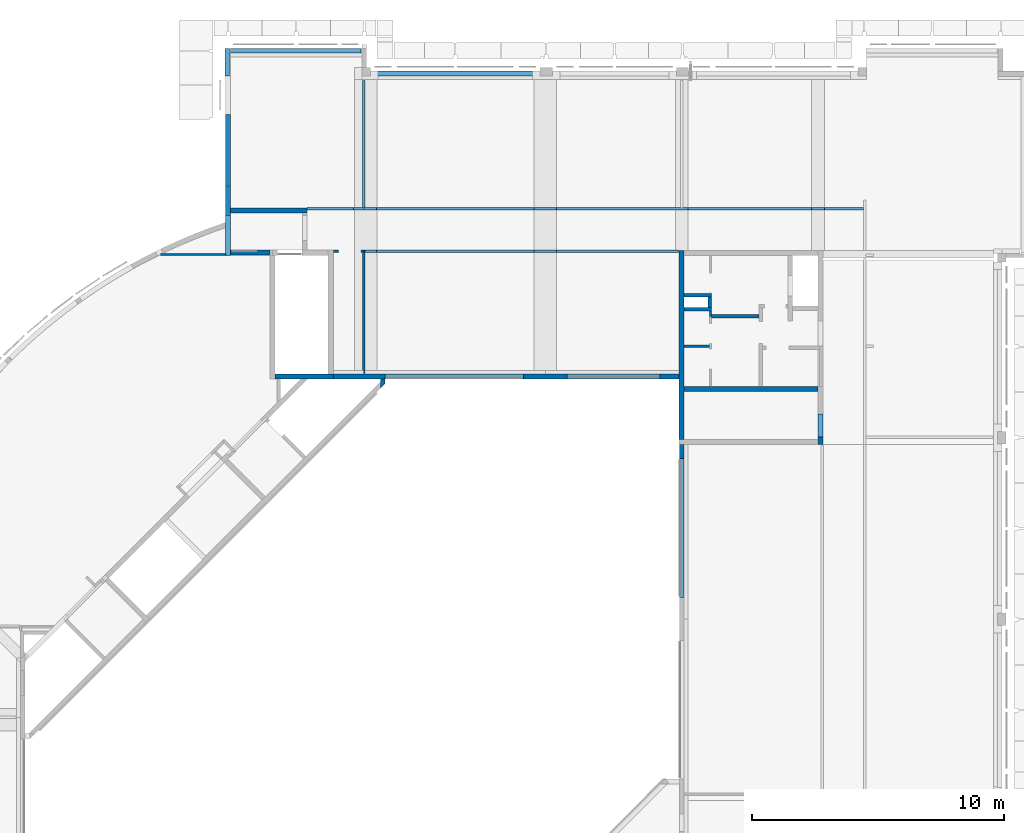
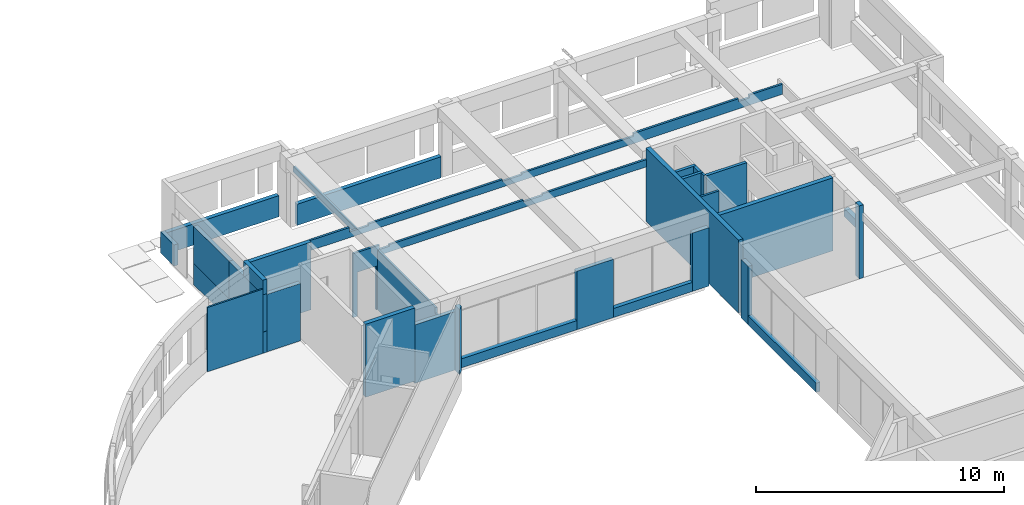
# One storey, part 17 of 26: 34 walls.
"""IFC4X3_ADD2 building model written with IfcOpenShell, lengths in millimetres."""

from ifc_helpers import new_model, si_unit, direction, frame, frame_2d, origin_with_axes, origin_2d_with_axis, place, context, subcontext, project, spatial, polyline, rectangle, outline, extrude, source, transform, mapped, material, type_object, type_shapes, element, save


model = new_model("IFC4X3_ADD2")

# Units and contexts
model_context = context("Model", 3, precision=1e-05, world=origin_with_axes(), true_north=direction((0.0, 1.0)))
body_context = subcontext(model_context, "Body", "Model", "MODEL_VIEW")
ifc_project = project(units=[si_unit("LENGTHUNIT", "METRE", prefix="MILLI"), si_unit("AREAUNIT", "SQUARE_METRE"), si_unit("VOLUMEUNIT", "CUBIC_METRE"), si_unit("PLANEANGLEUNIT", "RADIAN"), si_unit("TIMEUNIT", "SECOND"), si_unit("MASSUNIT", "GRAM")], contexts=[model_context])

# Site, building, storey
site_placement = place(None, origin_with_axes())
site = spatial("IfcSite", under=ifc_project, at=site_placement, Name="Site", CompositionType="ELEMENT")
building_placement = place(site_placement, origin_with_axes())
building = spatial("IfcBuilding", under=site, at=building_placement, Name="IFC Building Story")
storey_placement = place(building_placement, frame((0.0, 0.0, 7200.0), z_axis=(0.0, 0.0, 1.0), x_axis=(1.0, 0.0, 0.0)))
storey = spatial("IfcBuildingStorey", under=building, at=storey_placement, Name="020", Elevation=7200.0)

# Walls
ifc_material_1 = material(Name="BB_Beton_Bestaand")
wall_type_1 = type_object("IfcWallType", Name="BB_Beton_Bestaand 200", PredefinedType="NOTDEFINED", material=ifc_material_1)
wall_1_placement = place(storey_placement, origin_with_axes())
element("IfcWall", 1, at=wall_1_placement, inside=storey, type_object=wall_type_1, Name="Basic Wall:BB_XX_Wand uit beton, 200 mm", ObjectType="Basic Wall:BB_XX_Wand uit beton, 200 mm", PredefinedType="SOLIDWALL", context=body_context, shape_type="SweptSolid", body=[
    extrude(rectangle(XDim=7489.999999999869, YDim=199.9999999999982, at=frame_2d((0.0, 0.0), x_axis=(0.0, 1.0))), frame((-12600.0040658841, 39944.99999999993, -80.0), z_axis=(0.0, 0.0, 1.0), x_axis=(1.0, 0.0, 0.0)), (0.0, 0.0, 1.0), 3600.0),
])
wall_2_placement = place(storey_placement, origin_with_axes())
element("IfcWall", 2, at=wall_2_placement, inside=storey, type_object=wall_type_1, Name="Basic Wall:BB_XX_Wand uit beton, 200 mm", ObjectType="Basic Wall:BB_XX_Wand uit beton, 200 mm", PredefinedType="SOLIDWALL", context=body_context, shape_type="SweptSolid", body=[
    extrude(rectangle(XDim=5300.004065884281, YDim=200.0, at=origin_2d_with_axis()), frame((-9850.00203294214, 38200.0, -80.0), z_axis=(0.0, 0.0, 1.0), x_axis=(1.0, 0.0, 0.0)), (0.0, 0.0, 1.0), 3600.0),
])
wall_3_placement = place(storey_placement, origin_with_axes())
element("IfcWall", 3, at=wall_3_placement, inside=storey, type_object=wall_type_1, Name="Basic Wall:BB_XX_Wand uit beton, 200 mm", ObjectType="Basic Wall:BB_XX_Wand uit beton, 200 mm", PredefinedType="SOLIDWALL", context=body_context, shape_type="SweptSolid", body=[
    extrude(rectangle(XDim=299.9999999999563, YDim=200.0, at=frame_2d((0.0, 0.0), x_axis=(0.0, 1.0))), frame((-7100.0, 36149.99999999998, -200.0), z_axis=(0.0, 0.0, 1.0), x_axis=(1.0, 0.0, 0.0)), (0.0, 0.0, 1.0), 3600.0),
])
wall_4_placement = place(storey_placement, origin_with_axes())
element("IfcWall", 4, at=wall_4_placement, inside=storey, type_object=wall_type_1, Name="Basic Wall:BB_XX_Wand uit beton, 200 mm", ObjectType="Basic Wall:BB_XX_Wand uit beton, 200 mm", PredefinedType="SOLIDWALL", context=body_context, shape_type="SweptSolid", body=[
    extrude(rectangle(XDim=2299.999999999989, YDim=200.0, at=origin_2d_with_axis()), frame((-27550.0, 38699.9959341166, -80.0), z_axis=(0.0, 0.0, 1.0), x_axis=(1.0, 0.0, 0.0)), (0.0, 0.0, 1.0), 3600.0),
])
wall_type_2 = type_object("IfcWallType", Name="BB_Beton_Bestaand 190", PredefinedType="NOTDEFINED", material=ifc_material_1)
wall_5_placement = place(storey_placement, origin_with_axes())
element("IfcWall", 5, at=wall_5_placement, inside=storey, type_object=wall_type_2, Name="Basic Wall:BB_XX_Wand uit beton, 190 mm", ObjectType="Basic Wall:BB_XX_Wand uit beton, 190 mm", PredefinedType="SOLIDWALL", context=body_context, shape_type="SweptSolid", body=[
    extrude(rectangle(XDim=6710.000000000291, YDim=189.9999999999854, at=origin_2d_with_axis()), frame((-21600.00000000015, 50700.0, -200.0), z_axis=(0.0, 0.0, 1.0), x_axis=(1.0, 0.0, 0.0)), (0.0, 0.0, 1.0), 1040.0),
])
wall_6_placement = place(storey_placement, origin_with_axes())
element("IfcWall", 6, at=wall_6_placement, inside=storey, type_object=wall_type_2, Name="Basic Wall:BB_XX_Wand uit beton, 190 mm", ObjectType="Basic Wall:BB_XX_Wand uit beton, 190 mm", PredefinedType="SOLIDWALL", context=body_context, shape_type="SweptSolid", body=[
    extrude(rectangle(XDim=5585.000000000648, YDim=190.0, at=frame_2d((0.0, 0.0), x_axis=(0.0, 1.0))), frame((-30565.0, 46292.50000000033, -200.0), z_axis=(0.0, 0.0, 1.0), x_axis=(1.0, 0.0, 0.0)), (0.0, 0.0, 1.0), 1040.0),
])
wall_7_placement = place(storey_placement, origin_with_axes())
element("IfcWall", 7, at=wall_7_placement, inside=storey, type_object=wall_type_2, Name="Basic Wall:BB_XX_Wand uit beton, 190 mm", ObjectType="Basic Wall:BB_XX_Wand uit beton, 190 mm", PredefinedType="SOLIDWALL", context=body_context, shape_type="SweptSolid", body=[
    extrude(rectangle(XDim=5210.000000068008, YDim=189.9999999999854, at=origin_2d_with_axis()), frame((-27899.999999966, 51600.0, -200.0), z_axis=(0.0, 0.0, 1.0), x_axis=(1.0, 0.0, 0.0)), (0.0, 0.0, 1.0), 1040.0),
])
wall_8_placement = place(storey_placement, origin_with_axes())
element("IfcWall", 8, at=wall_8_placement, inside=storey, type_object=wall_type_2, Name="Basic Wall:BB_XX_Wand uit beton, 190 mm", ObjectType="Basic Wall:BB_XX_Wand uit beton, 190 mm", PredefinedType="SOLIDWALL", context=body_context, shape_type="SweptSolid", body=[
    extrude(rectangle(XDim=2055.000000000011, YDim=190.0, at=origin_2d_with_axis()), frame((-25372.5, 38699.9959341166, -200.0), z_axis=(0.0, 0.0, 1.0), x_axis=(1.0, 0.0, 0.0)), (0.0, 0.0, 1.0), 2880.0),
])
wall_9_placement = place(storey_placement, origin_with_axes())
element("IfcWall", 9, at=wall_9_placement, inside=storey, type_object=wall_type_2, Name="Basic Wall:BB_XX_Wand uit beton, 190 mm", ObjectType="Basic Wall:BB_XX_Wand uit beton, 190 mm", PredefinedType="SOLIDWALL", context=body_context, shape_type="SweptSolid", body=[
    extrude(rectangle(XDim=1710.0, YDim=190.0, at=origin_2d_with_axis()), frame((-18000.0, 38699.9959341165, -200.0), z_axis=(0.0, 0.0, 1.0), x_axis=(1.0, 0.0, 0.0)), (0.0, 0.0, 1.0), 2880.0),
])
wall_10_placement = place(storey_placement, origin_with_axes())
element("IfcWall", 10, at=wall_10_placement, inside=storey, type_object=wall_type_2, Name="Basic Wall:BB_XX_Wand uit beton, 190 mm", ObjectType="Basic Wall:BB_XX_Wand uit beton, 190 mm", PredefinedType="SOLIDWALL", context=body_context, shape_type="SweptSolid", body=[
    extrude(rectangle(XDim=754.9959341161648, YDim=190.0, at=origin_2d_with_axis()), frame((-13077.50203294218, 38699.9959341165, -200.0), z_axis=(0.0, 0.0, 1.0), x_axis=(1.0, 0.0, 0.0)), (0.0, 0.0, 1.0), 2880.0),
])
wall_11_placement = place(storey_placement, origin_with_axes())
element("IfcWall", 11, at=wall_11_placement, inside=storey, type_object=wall_type_2, Name="Basic Wall:BB_XX_Wand uit beton, 190 mm", ObjectType="Basic Wall:BB_XX_Wand uit beton, 190 mm", PredefinedType="SOLIDWALL", context=body_context, shape_type="SweptSolid", body=[
    extrude(rectangle(XDim=554.9959341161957, YDim=190.0, at=frame_2d((0.0, 0.0), x_axis=(0.0, 1.0))), frame((-12600.0040658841, 35722.4979670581, -200.0), z_axis=(0.0, 0.0, 1.0), x_axis=(1.0, 0.0, 0.0)), (0.0, 0.0, 1.0), 2880.0),
])
wall_12_placement = place(storey_placement, origin_with_axes())
element("IfcWall", 12, at=wall_12_placement, inside=storey, type_object=wall_type_2, Name="Basic Wall:BB_XX_Wand uit beton, 190 mm", ObjectType="Basic Wall:BB_XX_Wand uit beton, 190 mm", PredefinedType="SOLIDWALL", context=body_context, shape_type="SweptSolid", body=[
    extrude(rectangle(XDim=1090.000000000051, YDim=190.0, at=frame_2d((0.0, 0.0), x_axis=(0.0, 1.0))), frame((-30600.0, 51150.00000000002, -200.0), z_axis=(0.0, 0.0, 1.0), x_axis=(1.0, 0.0, 0.0)), (0.0, 0.0, 1.0), 1040.0),
])
wall_13_placement = place(storey_placement, origin_with_axes())
element("IfcWall", 13, at=wall_13_placement, inside=storey, type_object=wall_type_2, Name="Basic Wall:BB_XX_Wand uit beton, 190 mm", ObjectType="Basic Wall:BB_XX_Wand uit beton, 190 mm", PredefinedType="SOLIDWALL", context=body_context, shape_type="SweptSolid", body=[
    extrude(rectangle(XDim=5490.000000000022, YDim=190.0, at=frame_2d((0.0, 0.0), x_axis=(0.0, 1.0))), frame((-12600.0040658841, 32700.00000000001, -200.0), z_axis=(0.0, 0.0, 1.0), x_axis=(1.0, 0.0, 0.0)), (0.0, 0.0, 1.0), 449.999999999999),
])
wall_14_placement = place(storey_placement, origin_with_axes())
element("IfcWall", 14, at=wall_14_placement, inside=storey, type_object=wall_type_2, Name="Basic Wall:BB_XX_Wand uit beton, 190 mm", ObjectType="Basic Wall:BB_XX_Wand uit beton, 190 mm", PredefinedType="SOLIDWALL", context=body_context, shape_type="SweptSolid", body=[
    extrude(rectangle(XDim=3690.0, YDim=190.0, at=origin_2d_with_axis()), frame((-15300.0, 38699.9959341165, -200.0), z_axis=(0.0, 0.0, 1.0), x_axis=(1.0, 0.0, 0.0)), (0.0, 0.0, 1.0), 449.999999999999),
])
wall_15_placement = place(storey_placement, origin_with_axes())
element("IfcWall", 15, at=wall_15_placement, inside=storey, type_object=wall_type_2, Name="Basic Wall:BB_XX_Wand uit beton, 190 mm", ObjectType="Basic Wall:BB_XX_Wand uit beton, 190 mm", PredefinedType="SOLIDWALL", context=body_context, shape_type="SweptSolid", body=[
    extrude(rectangle(XDim=5490.0, YDim=190.0, at=origin_2d_with_axis()), frame((-21600.0, 38699.9959341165, -200.0), z_axis=(0.0, 0.0, 1.0), x_axis=(1.0, 0.0, 0.0)), (0.0, 0.0, 1.0), 449.999999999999),
])
ifc_material_2 = material(Name="BB_Metselwerk_Bestaand")
wall_type_3 = type_object("IfcWallType", Name="BB_Metselwerk_Bestaand 140", PredefinedType="NOTDEFINED", material=ifc_material_2)
wall_16_placement = place(storey_placement, origin_with_axes())
element("IfcWall", 16, at=wall_16_placement, inside=storey, type_object=wall_type_3, Name="Basic Wall:BB_XX_Wand uit metselwerk, 140 mm", ObjectType="Basic Wall:BB_XX_Wand uit metselwerk, 140 mm", PredefinedType="SOLIDWALL", context=body_context, shape_type="SweptSolid", body=[
    extrude(rectangle(XDim=1870.004065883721, YDim=140.0, at=origin_2d_with_axis()), frame((-10475.00203294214, 41080.0, -80.0), z_axis=(0.0, 0.0, 1.0), x_axis=(1.0, 0.0, 0.0)), (0.0, 0.0, 1.0), 3400.0),
])
wall_17_placement = place(storey_placement, origin_with_axes())
element("IfcWall", 17, at=wall_17_placement, inside=storey, type_object=wall_type_3, Name="Basic Wall:BB_XX_Wand uit metselwerk, 140 mm", ObjectType="Basic Wall:BB_XX_Wand uit metselwerk, 140 mm", PredefinedType="SOLIDWALL", context=body_context, shape_type="SweptSolid", body=[
    extrude(rectangle(XDim=1090.000000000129, YDim=140.0, at=origin_2d_with_axis()), frame((-11955.00406588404, 41370.0, -80.0), z_axis=(0.0, 0.0, 1.0), x_axis=(1.0, 0.0, 0.0)), (0.0, 0.0, 1.0), 3400.0),
])
wall_18_placement = place(storey_placement, origin_with_axes())
element("IfcWall", 18, at=wall_18_placement, inside=storey, type_object=wall_type_3, Name="Basic Wall:BB_XX_Wand uit metselwerk, 140 mm", ObjectType="Basic Wall:BB_XX_Wand uit metselwerk, 140 mm", PredefinedType="SOLIDWALL", context=body_context, shape_type="SweptSolid", body=[
    extrude(rectangle(XDim=409.9999999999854, YDim=140.0, at=frame_2d((0.0, 0.0), x_axis=(0.0, 1.0))), frame((-11480.004065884, 41644.99999999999, -80.0), z_axis=(0.0, 0.0, 1.0), x_axis=(1.0, 0.0, 0.0)), (0.0, 0.0, 1.0), 3400.0),
])
wall_19_placement = place(storey_placement, origin_with_axes())
element("IfcWall", 19, at=wall_19_placement, inside=storey, type_object=wall_type_3, Name="Basic Wall:BB_XX_Wand uit metselwerk, 140 mm", ObjectType="Basic Wall:BB_XX_Wand uit metselwerk, 140 mm", PredefinedType="SOLIDWALL", context=body_context, shape_type="SweptSolid", body=[
    extrude(rectangle(XDim=1090.000000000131, YDim=140.0, at=origin_2d_with_axis()), frame((-11955.00406588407, 41920.0, -80.0), z_axis=(0.0, 0.0, 1.0), x_axis=(1.0, 0.0, 0.0)), (0.0, 0.0, 1.0), 3400.0),
])
wall_type_4 = type_object("IfcWallType", Name="BB_Metselwerk_Bestaand 190", PredefinedType="NOTDEFINED", material=ifc_material_2)
wall_20_placement = place(storey_placement, origin_with_axes())
element("IfcWall", 20, at=wall_20_placement, inside=storey, type_object=wall_type_4, Name="Basic Wall:BB_XX_Wand uit metselwerk, 190 mm", ObjectType="Basic Wall:BB_XX_Wand uit metselwerk, 190 mm", PredefinedType="SOLIDWALL", context=body_context, shape_type="SweptSolid", body=[
    extrude(rectangle(XDim=2725.0, YDim=190.0, at=frame_2d((0.0, 0.0), x_axis=(0.0, 1.0))), frame((-30565.0, 44872.5, 840.0), z_axis=(0.0, 0.0, 1.0), x_axis=(1.0, 0.0, 0.0)), (0.0, 0.0, 1.0), 1840.0),
])
wall_21_placement = place(storey_placement, origin_with_axes())
element("IfcWall", 21, at=wall_21_placement, inside=storey, type_object=wall_type_4, Name="Basic Wall:BB_XX_Wand uit metselwerk, 190 mm", ObjectType="Basic Wall:BB_XX_Wand uit metselwerk, 190 mm", PredefinedType="SOLIDWALL", context=body_context, shape_type="SweptSolid", body=[
    extrude(rectangle(XDim=1574.999999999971, YDim=190.0, at=frame_2d((0.0, 0.0), x_axis=(0.0, 1.0))), frame((-30565.0, 44287.50000000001, 2680.0), z_axis=(0.0, 0.0, 1.0), x_axis=(1.0, 0.0, 0.0)), (0.0, 0.0, 1.0), 720.000000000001),
])
wall_22_placement = place(storey_placement, origin_with_axes())
element("IfcWall", 22, at=wall_22_placement, inside=storey, type_object=wall_type_4, Name="Basic Wall:BB_XX_Wand uit metselwerk, 190 mm", ObjectType="Basic Wall:BB_XX_Wand uit metselwerk, 190 mm", PredefinedType="SOLIDWALL", context=body_context, shape_type="SweptSolid", body=[
    extrude(rectangle(XDim=1570.000000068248, YDim=189.9999999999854, at=origin_2d_with_axis()), frame((-29684.99999996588, 43605.0, -200.0), z_axis=(0.0, 0.0, 1.0), x_axis=(1.0, 0.0, 0.0)), (0.0, 0.0, 1.0), 2830.0),
])
ifc_material_3 = material(Name="BB_Metselwerk_Betonsteen")
wall_type_5 = type_object("IfcWallType", Name="BB_Metselwerk_Betonsteen 190", PredefinedType="NOTDEFINED", material=ifc_material_3)
wall_23_placement = place(storey_placement, origin_with_axes())
element("IfcWall", 23, at=wall_23_placement, inside=storey, type_object=wall_type_5, Name="Basic Wall:BB_03.09.24#03_Wand uit metselwerk, 190 mm", ObjectType="Basic Wall:BB_03.09.24#03_Wand uit metselwerk, 190 mm", PredefinedType="SOLIDWALL", context=body_context, shape_type="SweptSolid", body=[
    extrude(rectangle(XDim=2850.00000000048, YDim=190.0, at=frame_2d((0.0, 0.0), x_axis=(0.0, 1.0))), frame((-30565.0, 47660.00000000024, 840.0), z_axis=(0.0, 0.0, 1.0), x_axis=(1.0, 0.0, 0.0)), (0.0, 0.0, 1.0), 1840.0),
])
wall_24_placement = place(storey_placement, origin_with_axes())
element("IfcWall", 24, at=wall_24_placement, inside=storey, type_object=wall_type_5, Name="Basic Wall:BB_03.09.24#05_Wand uit metselwerk_EI60, 190 mm", ObjectType="Basic Wall:BB_03.09.24#05_Wand uit metselwerk_EI60, 190 mm", PredefinedType="SOLIDWALL", context=body_context, shape_type="SweptSolid", body=[
    extrude(rectangle(XDim=3035.0, YDim=189.9999999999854, at=origin_2d_with_axis()), frame((-28952.5, 45280.0, -200.0), z_axis=(0.0, 0.0, 1.0), x_axis=(1.0, 0.0, 0.0)), (0.0, 0.0, 1.0), 3340.0),
])
wall_type_6 = type_object("IfcWallType", Name="BB_Metselwerk_Betonsteen 0", PredefinedType="NOTDEFINED", material=ifc_material_3)
wall_25_placement = place(storey_placement, origin_with_axes())
element("IfcWall", 25, at=wall_25_placement, inside=storey, type_object=wall_type_6, Name="Basic Wall:BB_03.09.24#05_Wand uit metselwerk_EI60, 190 mm", ObjectType="Basic Wall:BB_03.09.24#05_Wand uit metselwerk_EI60, 190 mm", PredefinedType="SOLIDWALL", context=body_context, shape_type="SweptSolid", body=[
    extrude(outline(polyline([(94.99999999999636, 142.3464480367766), (95.0, -47.34644803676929), (-95.00000000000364, -237.3464480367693), (-95.00000000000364, 142.3464480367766), (94.99999999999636, 142.3464480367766)])), frame((-24440.0, 38462.64948607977, -200.0), z_axis=(0.0, 0.0, 1.0), x_axis=(1.0, 0.0, 0.0)), (0.0, 0.0, 1.0), 3199.99999999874),
])
wall_type_7 = type_object("IfcWallType", Name="Basic Wall_BB_10.01.41#01_Gipskartonwand_MS100 _ 25.50.25_ 100 mm79", PredefinedType="NOTDEFINED")
shared_shape_1 = source(origin_with_axes(), body_context, "Body", "SweptSolid", [
    extrude(outline(polyline([(-628.7499999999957, 1327.5), (-433.7500000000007, 1327.5), (-433.7500000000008, -837.4999999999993), (456.2500000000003, -837.4999999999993), (456.2500000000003, 1327.5), (606.2499999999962, 1327.5), (606.2499999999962, -1817.5), (-628.7499999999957, -1817.5), (-628.7499999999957, 1327.5)])), frame((628.7499999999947, 37.4999999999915, 1327.5), z_axis=(0.0, 1.0, 0.0), x_axis=(1.0, 0.0, 0.0)), (0.0, 0.0, 1.0), 12.49999999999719),
    extrude(outline(polyline([(-747.4999999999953, 1646.999999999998), (-552.5000000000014, 1646.999999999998), (-552.5000000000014, -518.0000000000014), (337.5000000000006, -518.0000000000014), (337.5000000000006, 1646.999999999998), (474.9999999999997, 1646.999999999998), (474.9999999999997, -1277.999999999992), (487.4999999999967, -1277.999999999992), (487.4999999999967, -1498.000000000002), (-747.4999999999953, -1498.000000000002), (-747.4999999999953, 1646.999999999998)])), frame((747.4999999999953, 25.0, 1646.999999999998), z_axis=(0.0, 1.0, 0.0), x_axis=(1.0, 0.0, 0.0)), (0.0, 0.0, 1.0), 12.49999999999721),
    extrude(outline(polyline([(-744.9999999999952, 1646.999999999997), (-550.0, 1646.999999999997), (-550.0, -518.0000000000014), (340.0, -518.0000000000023), (340.0, 1647.000000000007), (464.999999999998, 1646.999999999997), (464.999999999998, -1277.999999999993), (489.9999999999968, -1277.999999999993), (489.9999999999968, -1498.000000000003), (-744.9999999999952, -1498.000000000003), (-744.9999999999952, 1646.999999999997)])), frame((744.9999999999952, -25.0, 1646.999999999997), z_axis=(0.0, 1.0, 0.0), x_axis=(1.0, 0.0, 0.0)), (0.0, 0.0, 1.0), 50.000000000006),
    extrude(outline(polyline([(-734.9999999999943, 1646.999999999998), (-540.0, 1646.999999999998), (-540.0, -518.0000000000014), (350.0, -518.0000000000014), (350.0, 1646.999999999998), (424.9999999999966, 1646.999999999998), (424.9999999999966, -1277.999999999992), (499.9999999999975, -1277.999999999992), (499.9999999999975, -1498.000000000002), (-734.9999999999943, -1498.000000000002), (-734.9999999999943, 1646.999999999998)])), frame((734.9999999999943, -37.49999999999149, 1646.999999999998), z_axis=(0.0, 1.0, 0.0), x_axis=(1.0, 0.0, 0.0)), (0.0, 0.0, 1.0), 12.49999999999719),
    extrude(outline(polyline([(-732.4999999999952, -1498.000000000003), (-732.4999999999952, 1646.999999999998), (-537.5000000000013, 1646.999999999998), (-537.5000000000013, -518.0), (352.5000000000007, -518.0), (352.5000000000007, 1646.999999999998), (414.9999999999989, 1646.999999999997), (414.9999999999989, -1277.999999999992), (502.4999999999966, -1277.999999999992), (502.4999999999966, -1498.000000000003), (-732.4999999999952, -1498.000000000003)])), frame((732.4999999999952, -50.0, 1646.999999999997), z_axis=(0.0, 1.0, 0.0), x_axis=(1.0, 0.0, 0.0)), (0.0, 0.0, 1.0), 12.5000000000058),
])
type_shapes(wall_type_7, [shared_shape_1])
wall_26_placement = place(storey_placement, frame((-26385.0, 43665.0, -5.0), z_axis=(0.0, 0.0, 1.0), x_axis=(1.0, 0.0, 0.0)))
element("IfcWall", 26, at=wall_26_placement, inside=storey, type_object=wall_type_7, Name="Basic Wall:BB_10.01.41#01_Gipskartonwand_MS100 / 25.50.25, 100 mm", ObjectType="Basic Wall:BB_10.01.41#01_Gipskartonwand_MS100 / 25.50.25, 100 mm", PredefinedType="PARTITIONING", context=body_context, shape_type="MappedRepresentation", body=[
    mapped(shared_shape_1, transform((0.0, 0.0, 0.0))),
])
wall_type_8 = type_object("IfcWallType", Name="Basic Wall_BB_10.01.41#01_Gipskartonwand_MS100 _ 25.50.25_ 100 mm81", PredefinedType="NOTDEFINED")
shared_shape_2 = source(origin_with_axes(), body_context, "Body", "SweptSolid", [
    extrude(outline(polyline([(-3590.62499999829, 2052.499999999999), (1291.87499999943, 2052.499999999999), (1291.87499999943, -587.4999999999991), (1141.87499999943, -587.4999999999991), (1141.87499999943, -592.5), (1156.87499999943, -592.5), (1156.87499999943, -872.4999999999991), (-3590.62499999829, -872.4999999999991), (-3590.62499999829, 2052.499999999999)])), frame((3503.1249999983, 37.50000000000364, 2052.499999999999), z_axis=(0.0, 1.0, 0.0), x_axis=(1.0, 0.0, 0.0)), (0.0, 0.0, 1.0), 12.5),
    extrude(outline(polyline([(-3581.24999999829, 2052.499999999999), (1288.74999999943, 2052.499999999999), (1288.74999999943, -587.4999999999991), (1138.74999999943, -587.4999999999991), (1138.74999999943, -592.5), (1153.74999999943, -592.5), (1153.74999999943, -872.4999999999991), (-3581.24999999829, -872.4999999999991), (-3581.24999999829, 2052.499999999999)])), frame((3506.24999999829, 25.0, 2052.499999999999), z_axis=(0.0, 1.0, 0.0), x_axis=(1.0, 0.0, 0.0)), (0.0, 0.0, 1.0), 12.5),
    extrude(outline(polyline([(-3546.249999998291, 2052.499999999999), (1273.749999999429, 2052.499999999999), (1273.749999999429, -587.4999999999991), (1123.749999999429, -587.4999999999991), (1123.749999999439, -592.5), (1148.749999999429, -592.5), (1148.749999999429, -872.4999999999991), (-3546.249999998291, -872.4999999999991), (-3546.249999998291, 2052.499999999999)])), frame((3521.249999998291, -25.0, 2052.499999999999), z_axis=(0.0, 1.0, 0.0), x_axis=(1.0, 0.0, 0.0)), (0.0, 0.0, 1.0), 49.99999999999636),
    extrude(outline(polyline([(-3534.374999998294, 2052.499999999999), (1273.124999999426, 2052.499999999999), (1273.124999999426, -587.4999999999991), (1123.124999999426, -587.4999999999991), (1123.124999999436, -592.5), (1138.124999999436, -592.5), (1138.124999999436, -872.4999999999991), (-3534.374999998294, -872.4999999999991), (-3534.374999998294, 2052.499999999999)])), frame((3521.874999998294, -37.5, 2052.499999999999), z_axis=(0.0, 1.0, 0.0), x_axis=(1.0, 0.0, 0.0)), (0.0, 0.0, 1.0), 12.5),
    extrude(outline(polyline([(-3524.999999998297, 2052.499999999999), (1269.999999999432, 2052.499999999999), (1269.999999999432, -587.4999999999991), (1119.999999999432, -587.4999999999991), (1119.999999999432, -592.5), (1134.999999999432, -592.5), (1134.999999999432, -872.4999999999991), (-3524.999999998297, -872.4999999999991), (-3524.999999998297, 2052.499999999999)])), frame((3524.999999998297, -50.0, 2052.499999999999), z_axis=(0.0, 1.0, 0.0), x_axis=(1.0, 0.0, 0.0)), (0.0, 0.0, 1.0), 12.5),
])
type_shapes(wall_type_8, [shared_shape_2])
wall_27_placement = place(storey_placement, frame((-25200.0, 43615.0, -5.0), z_axis=(0.0, 0.0, 1.0), x_axis=(0.0, -1.0, 0.0)))
element("IfcWall", 27, at=wall_27_placement, inside=storey, type_object=wall_type_8, Name="Basic Wall:BB_10.01.41#01_Gipskartonwand_MS100 / 25.50.25, 100 mm", ObjectType="Basic Wall:BB_10.01.41#01_Gipskartonwand_MS100 / 25.50.25, 100 mm", PredefinedType="PARTITIONING", context=body_context, shape_type="MappedRepresentation", body=[
    mapped(shared_shape_2, transform((0.0, 0.0, 0.0))),
])
wall_type_9 = type_object("IfcWallType", Name="Basic Wall_BB_10.01.41#01_Gipskartonwand_MS100 _ 25.50.25_ 100 mm87", PredefinedType="NOTDEFINED")
shared_shape_3 = source(origin_with_axes(), body_context, "Body", "SweptSolid", [
    extrude(outline(polyline([(-9258.333333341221, -151.1111111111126), (-10808.3333333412, -151.1111111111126), (-10808.3333333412, 348.8888888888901), (11226.6666667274, 348.8888888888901), (11226.6666667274, -151.1111111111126), (9386.666666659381, -151.1111111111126), (9386.66666665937, 68.88888888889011), (8486.666666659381, 68.88888888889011), (8486.666666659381, -11.11111111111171), (2241.66666665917, -11.11111111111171), (2241.666666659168, 68.88888888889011), (1341.666666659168, 68.88888888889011), (1341.666666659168, -11.11111111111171), (-3858.333333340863, -11.11111111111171), (-3858.333333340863, -151.1111111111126), (-8758.333333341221, -151.1111111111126), (-8758.333333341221, -11.11111111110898), (-9258.333333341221, -11.11111111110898), (-9258.333333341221, -151.1111111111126)])), frame((10808.3333333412, 37.50000000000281, 348.8888888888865), z_axis=(0.0, 1.0, 0.0), x_axis=(1.0, 0.0, 0.0)), (0.0, 0.0, 1.0), 12.49999999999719),
    extrude(outline(polyline([(-10808.3333333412, -151.1111111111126), (-10808.3333333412, 348.8888888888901), (11226.6666667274, 348.8888888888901), (11226.6666667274, -151.1111111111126), (9386.666666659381, -151.1111111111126), (9386.66666665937, 68.88888888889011), (8486.666666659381, 68.88888888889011), (8486.666666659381, -11.11111111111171), (2241.66666665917, -11.11111111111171), (2241.666666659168, 68.88888888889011), (1341.666666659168, 68.88888888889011), (1341.666666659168, -11.11111111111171), (-3858.333333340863, -11.11111111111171), (-3858.333333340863, -151.1111111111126), (-8758.333333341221, -151.1111111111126), (-8758.333333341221, -11.11111111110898), (-9258.333333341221, -11.11111111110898), (-9258.333333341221, -151.1111111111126), (-10808.3333333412, -151.1111111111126)])), frame((10808.3333333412, 24.99999999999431, 348.8888888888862), z_axis=(0.0, 1.0, 0.0), x_axis=(1.0, 0.0, 0.0)), (0.0, 0.0, 1.0), 12.49999999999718),
    extrude(outline(polyline([(-10808.3333333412, -151.1111111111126), (-10808.3333333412, 348.8888888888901), (11226.6666667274, 348.8888888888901), (11226.6666667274, -151.1111111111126), (9386.666666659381, -151.1111111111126), (9386.66666665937, 68.88888888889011), (8486.666666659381, 68.88888888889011), (8486.666666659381, -11.11111111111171), (2241.66666665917, -11.11111111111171), (2241.666666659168, 68.88888888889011), (1341.666666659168, 68.88888888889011), (1341.666666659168, -11.11111111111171), (-3858.333333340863, -11.11111111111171), (-3858.333333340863, -151.1111111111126), (-8758.333333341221, -151.1111111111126), (-8758.333333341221, -11.11111111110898), (-9258.333333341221, -11.11111111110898), (-9258.333333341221, -151.1111111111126), (-10808.3333333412, -151.1111111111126)])), frame((10808.3333333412, -25.00000000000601, 348.8888888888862), z_axis=(0.0, 1.0, 0.0), x_axis=(1.0, 0.0, 0.0)), (0.0, 0.0, 1.0), 50.00000000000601),
    extrude(outline(polyline([(-10808.3333333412, -151.1111111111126), (-10808.3333333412, 348.8888888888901), (11226.6666667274, 348.8888888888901), (11226.6666667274, -151.1111111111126), (9386.666666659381, -151.1111111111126), (9386.66666665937, 68.88888888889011), (8486.666666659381, 68.88888888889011), (8486.666666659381, -11.11111111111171), (2241.66666665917, -11.11111111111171), (2241.666666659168, 68.88888888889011), (1341.666666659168, 68.88888888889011), (1341.666666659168, -11.11111111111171), (-3858.333333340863, -11.11111111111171), (-3858.333333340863, -151.1111111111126), (-8758.333333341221, -151.1111111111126), (-8758.333333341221, -11.11111111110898), (-9258.333333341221, -11.11111111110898), (-9258.333333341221, -151.1111111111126), (-10808.3333333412, -151.1111111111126)])), frame((10808.3333333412, -37.49999999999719, 348.8888888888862), z_axis=(0.0, 1.0, 0.0), x_axis=(1.0, 0.0, 0.0)), (0.0, 0.0, 1.0), 12.49999999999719),
    extrude(outline(polyline([(-10808.3333333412, -151.1111111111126), (-10808.3333333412, 348.8888888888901), (11226.6666667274, 348.8888888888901), (11226.6666667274, -151.1111111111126), (9386.666666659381, -151.1111111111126), (9386.66666665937, 68.88888888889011), (8486.666666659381, 68.88888888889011), (8486.666666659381, -11.11111111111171), (2241.66666665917, -11.11111111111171), (2241.666666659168, 68.88888888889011), (1341.666666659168, 68.88888888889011), (1341.666666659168, -11.11111111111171), (-3858.333333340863, -11.11111111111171), (-3858.333333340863, -151.1111111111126), (-8758.333333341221, -151.1111111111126), (-8758.333333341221, -11.11111111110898), (-9258.333333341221, -11.11111111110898), (-9258.333333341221, -151.1111111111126), (-10808.3333333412, -151.1111111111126)])), frame((10808.3333333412, -49.9999999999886, 348.8888888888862), z_axis=(0.0, 1.0, 0.0), x_axis=(1.0, 0.0, 0.0)), (0.0, 0.0, 1.0), 12.5000000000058),
])
type_shapes(wall_type_9, [shared_shape_3])
wall_28_placement = place(storey_placement, frame((-5400.0, 45340.0, 2640.0), z_axis=(0.0, 0.0, 1.0), x_axis=(-1.0, 0.0, 0.0)))
element("IfcWall", 28, at=wall_28_placement, inside=storey, type_object=wall_type_9, Name="Basic Wall:BB_10.01.41#01_Gipskartonwand_MS100 / 25.50.25, 100 mm", ObjectType="Basic Wall:BB_10.01.41#01_Gipskartonwand_MS100 / 25.50.25, 100 mm", PredefinedType="PARTITIONING", context=body_context, shape_type="MappedRepresentation", body=[
    mapped(shared_shape_3, transform((0.0, 0.0, 0.0))),
])
wall_type_10 = type_object("IfcWallType", Name="Basic Wall_BB_10.01.41#01_Gipskartonwand_MS100 _ 25.50.25_ 100 mm113", PredefinedType="NOTDEFINED")
shared_shape_4 = source(origin_with_axes(), body_context, "Body", "SweptSolid", [
    extrude(outline(polyline([(6996.996747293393, 255.9999999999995), (6996.996747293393, -104.0), (2162.000813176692, -104.0), (2162.000813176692, -23.99999999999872), (1262.000813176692, -23.99999999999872), (1262.000813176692, -104.0000000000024), (-4982.999186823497, -104.0), (-4982.999186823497, -23.99999999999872), (-5437.999186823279, -23.99999999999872), (-5437.999186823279, 255.9999999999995), (6996.996747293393, 255.9999999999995)])), frame((5437.999186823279, 37.50000000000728, 255.9999999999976), z_axis=(0.0, 1.0, 0.0), x_axis=(1.0, 0.0, 0.0)), (0.0, 0.0, 1.0), 12.5),
    extrude(outline(polyline([(6996.996747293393, 255.9999999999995), (6996.996747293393, -104.0), (2162.000813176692, -104.0), (2162.000813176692, -23.99999999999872), (1262.000813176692, -23.99999999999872), (1262.000813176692, -104.0000000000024), (-4982.999186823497, -104.0), (-4982.999186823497, -23.99999999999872), (-5437.999186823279, -23.99999999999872), (-5437.999186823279, 255.9999999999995), (6996.996747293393, 255.9999999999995)])), frame((5437.999186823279, 25.0, 255.9999999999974), z_axis=(0.0, 1.0, 0.0), x_axis=(1.0, 0.0, 0.0)), (0.0, 0.0, 1.0), 12.5),
    extrude(outline(polyline([(6996.996747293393, 255.9999999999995), (6996.996747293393, -104.0), (2162.000813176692, -104.0), (2162.000813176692, -23.99999999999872), (1262.000813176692, -23.99999999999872), (1262.000813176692, -104.0000000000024), (-4982.999186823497, -104.0), (-4982.999186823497, -23.99999999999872), (-5437.999186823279, -23.99999999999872), (-5437.999186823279, 255.9999999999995), (6996.996747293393, 255.9999999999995)])), frame((5437.999186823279, -25.0, 255.9999999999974), z_axis=(0.0, 1.0, 0.0), x_axis=(1.0, 0.0, 0.0)), (0.0, 0.0, 1.0), 50.00000000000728),
    extrude(outline(polyline([(6996.996747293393, 255.9999999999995), (6996.996747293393, -104.0), (2162.000813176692, -104.0), (2162.000813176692, -23.99999999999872), (1262.000813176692, -23.99999999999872), (1262.000813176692, -104.0000000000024), (-4982.999186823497, -104.0), (-4982.999186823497, -23.99999999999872), (-5437.999186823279, -23.99999999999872), (-5437.999186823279, 255.9999999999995), (6996.996747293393, 255.9999999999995)])), frame((5437.999186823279, -37.49999999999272, 255.9999999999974), z_axis=(0.0, 1.0, 0.0), x_axis=(1.0, 0.0, 0.0)), (0.0, 0.0, 1.0), 12.5),
    extrude(outline(polyline([(-5437.999186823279, 255.9999999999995), (6996.996747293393, 255.9999999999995), (6996.996747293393, -104.0), (2162.000813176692, -104.0), (2162.000813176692, -23.99999999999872), (1262.000813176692, -23.99999999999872), (1262.000813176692, -104.0000000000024), (-4982.999186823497, -104.0), (-4982.999186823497, -23.99999999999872), (-5437.999186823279, -23.99999999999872), (-5437.999186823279, 255.9999999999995)])), frame((5437.999186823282, -50.0, 255.9999999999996), z_axis=(0.0, 1.0, 0.0), x_axis=(1.0, 0.0, 0.0)), (0.0, 0.0, 1.0), 12.5),
])
type_shapes(wall_type_10, [shared_shape_4])
wall_29_placement = place(storey_placement, frame((-25150.0, 43665.0, 2640.0), z_axis=(0.0, 0.0, 1.0), x_axis=(1.0, 0.0, 0.0)))
element("IfcWall", 29, at=wall_29_placement, inside=storey, type_object=wall_type_10, Name="Basic Wall:BB_10.01.41#01_Gipskartonwand_MS100 / 25.50.25, 100 mm", ObjectType="Basic Wall:BB_10.01.41#01_Gipskartonwand_MS100 / 25.50.25, 100 mm", PredefinedType="PARTITIONING", context=body_context, shape_type="MappedRepresentation", body=[
    mapped(shared_shape_4, transform((0.0, 0.0, 0.0))),
])
wall_type_11 = type_object("IfcWallType", Name="Basic Wall_BB_10.01.62#01_Voorzetwand gipskarton_MS75 _ 50.25_ 75 mm23", PredefinedType="NOTDEFINED")
shared_shape_5 = source(origin_with_axes(), body_context, "Body", "SweptSolid", [
    extrude(rectangle(XDim=2580.0, YDim=12.49999999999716, at=origin_2d_with_axis()), frame((1290.0, 31.25000000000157, 0.0), z_axis=(0.0, 0.0, 1.0), x_axis=(1.0, 0.0, 0.0)), (0.0, 0.0, 1.0), 3170.0),
    extrude(rectangle(XDim=2580.0, YDim=12.50000000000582, at=origin_2d_with_axis()), frame((1290.0, 18.7500000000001, 0.0), z_axis=(0.0, 0.0, 1.0), x_axis=(1.0, 0.0, 0.0)), (0.0, 0.0, 1.0), 3170.0),
    extrude(rectangle(XDim=2580.0, YDim=49.9999999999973, at=origin_2d_with_axis()), frame((1290.0, -12.50000000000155, 0.0), z_axis=(0.0, 0.0, 1.0), x_axis=(1.0, 0.0, 0.0)), (0.0, 0.0, 1.0), 3170.0),
])
type_shapes(wall_type_11, [shared_shape_5])
wall_30_placement = place(storey_placement, frame((-30659.7160849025, 43532.5000000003, -200.0), z_axis=(0.0, 0.0, 1.0), x_axis=(-1.0, 0.0, 0.0)))
element("IfcWall", 30, at=wall_30_placement, inside=storey, type_object=wall_type_11, Name="Basic Wall:BB_10.01.62#01_Voorzetwand gipskarton_MS75 / 50.25, 75 mm", ObjectType="Basic Wall:BB_10.01.62#01_Voorzetwand gipskarton_MS75 / 50.25, 75 mm", PredefinedType="PARTITIONING", context=body_context, shape_type="MappedRepresentation", body=[
    mapped(shared_shape_5, transform((0.0, 0.0, 0.0))),
])
wall_type_12 = type_object("IfcWallType", Name="Basic Wall_BB_10.01.41#01_Gipskartonwand_MS100 _ 25.50.25_ 100 mm131", PredefinedType="NOTDEFINED")
shared_shape_6 = source(origin_with_axes(), body_context, "Body", "SweptSolid", [
    extrude(rectangle(XDim=5040.00000000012, YDim=12.50000000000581, at=origin_2d_with_axis()), frame((2519.999999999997, 43.7499999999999, 0.0), z_axis=(0.0, 0.0, 1.0), x_axis=(1.0, 0.0, 0.0)), (0.0, 0.0, 1.0), 279.999999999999),
    extrude(rectangle(XDim=5052.50000000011, YDim=12.50000000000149, at=origin_2d_with_axis()), frame((2526.250000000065, 31.2500000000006, 0.0), z_axis=(0.0, 0.0, 1.0), x_axis=(1.0, 0.0, 0.0)), (0.0, 0.0, 1.0), 279.999999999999),
    extrude(rectangle(XDim=5065.00000000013, YDim=49.9999999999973, at=origin_2d_with_axis()), frame((2532.500000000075, -1.072031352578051e-12, 0.0), z_axis=(0.0, 0.0, 1.0), x_axis=(1.0, 0.0, 0.0)), (0.0, 0.0, 1.0), 279.999999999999),
    extrude(rectangle(XDim=5040.00000000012, YDim=12.50000000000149, at=origin_2d_with_axis()), frame((2520.0, -31.2500000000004, 0.0), z_axis=(0.0, 0.0, 1.0), x_axis=(1.0, 0.0, 0.0)), (0.0, 0.0, 1.0), 279.999999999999),
    extrude(rectangle(XDim=5040.00000000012, YDim=12.49999999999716, at=origin_2d_with_axis()), frame((2520.0, -43.74999999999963, 0.0), z_axis=(0.0, 0.0, 1.0), x_axis=(1.0, 0.0, 0.0)), (0.0, 0.0, 1.0), 279.999999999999),
])
type_shapes(wall_type_12, [shared_shape_6])
wall_31_placement = place(storey_placement, frame((-25200.0, 50430.0, 2640.0), z_axis=(0.0, 0.0, 1.0), x_axis=(0.0, -1.0, 0.0)))
element("IfcWall", 31, at=wall_31_placement, inside=storey, type_object=wall_type_12, Name="Basic Wall:BB_10.01.41#01_Gipskartonwand_MS100 / 25.50.25, 100 mm", ObjectType="Basic Wall:BB_10.01.41#01_Gipskartonwand_MS100 / 25.50.25, 100 mm", PredefinedType="PARTITIONING", context=body_context, shape_type="MappedRepresentation", body=[
    mapped(shared_shape_6, transform((0.0, 0.0, 0.0))),
])
wall_type_13 = type_object("IfcWallType", Name="BB_Metselwerk_Bestaand 200", PredefinedType="NOTDEFINED", material=ifc_material_2)
wall_32_placement = place(storey_placement, origin_with_axes())
element("IfcWall", 32, at=wall_32_placement, inside=storey, type_object=wall_type_13, Name="Basic Wall:BB_XX_Wand uit metselwerk, 200 mm", ObjectType="Basic Wall:BB_XX_Wand uit metselwerk, 200 mm", PredefinedType="SOLIDWALL", context=body_context, shape_type="SweptSolid", body=[
    extrude(rectangle(XDim=910.0000000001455, YDim=200.0, at=frame_2d((0.0, 0.0), x_axis=(0.0, 1.0))), frame((-7100.0, 36754.99999999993, 2160.0), z_axis=(0.0, 0.0, 1.0), x_axis=(1.0, 0.0, 0.0)), (0.0, 0.0, 1.0), 390.000000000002),
])
wall_type_14 = type_object("IfcWallType", Name="BB_Metselwerk_Bestaand 100", PredefinedType="NOTDEFINED", material=ifc_material_2)
wall_33_placement = place(storey_placement, origin_with_axes())
element("IfcWall", 33, at=wall_33_placement, inside=storey, type_object=wall_type_14, Name="Basic Wall:BB_XX_Wand uit metselwerk, 100 mm", ObjectType="Basic Wall:BB_XX_Wand uit metselwerk, 100 mm", PredefinedType="SOLIDWALL", context=body_context, shape_type="SweptSolid", body=[
    extrude(rectangle(XDim=1000.000000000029, YDim=100.0, at=origin_2d_with_axis()), frame((-12000.00406588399, 39895.0, -80.0), z_axis=(0.0, 0.0, 1.0), x_axis=(1.0, 0.0, 0.0)), (0.0, 0.0, 1.0), 3400.0),
])
wall_type_15 = type_object("IfcWallType", Name="BB_Metselwerk_Bestaand 90", PredefinedType="NOTDEFINED", material=ifc_material_2)
wall_34_placement = place(storey_placement, origin_with_axes())
element("IfcWall", 34, at=wall_34_placement, inside=storey, type_object=wall_type_15, Name="Basic Wall:BB_XX_Wand uit metselwerk, 90 mm", ObjectType="Basic Wall:BB_XX_Wand uit metselwerk, 90 mm", PredefinedType="SOLIDWALL", context=body_context, shape_type="SweptSolid", body=[
    extrude(rectangle(XDim=220.0, YDim=90.0, at=frame_2d((0.0, 0.0), x_axis=(0.0, 1.0))), frame((-11455.004065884, 41190.0, -80.0), z_axis=(0.0, 0.0, 1.0), x_axis=(1.0, 0.0, 0.0)), (0.0, 0.0, 1.0), 3400.0),
])

save(model, "model.ifc")
